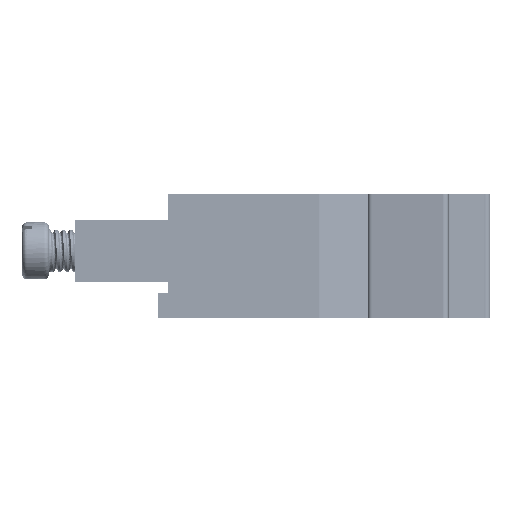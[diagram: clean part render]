
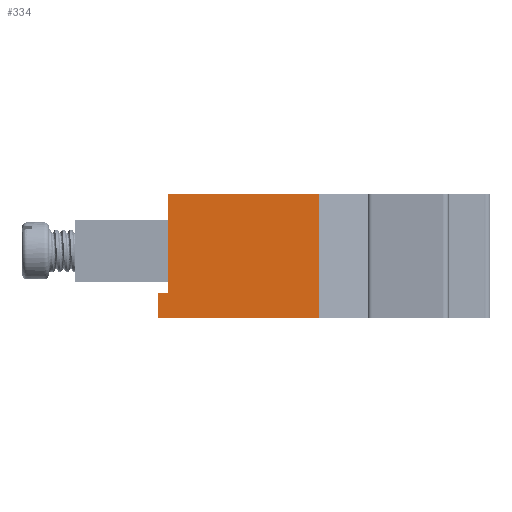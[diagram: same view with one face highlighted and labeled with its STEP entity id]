
A CAD part, left-side view. The second image highlights one B-rep face of the part: STEP entity #334.
In plain terms, the highlighted planar face has unit normal (-1, 0, 0).
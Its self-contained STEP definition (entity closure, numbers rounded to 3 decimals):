
#55 = LINE ( 'NONE', #6162, #10200 ) ;
#334 = ADVANCED_FACE ( 'NONE', ( #3201 ), #14025, .F. ) ;
#984 = LINE ( 'NONE', #16135, #11140 ) ;
#1542 = EDGE_CURVE ( 'NONE', #3099, #11337, #14941, .T. ) ;
#1697 = EDGE_CURVE ( 'NONE', #7669, #14663, #55, .T. ) ;
#2054 = VECTOR ( 'NONE', #5683, 1000. ) ;
#2324 = DIRECTION ( 'NONE',  ( 1., 0., 0. ) ) ;
#2611 = ORIENTED_EDGE ( 'NONE', *, *, #7662, .T. ) ;
#2901 = LINE ( 'NONE', #12443, #9929 ) ;
#2970 = ORIENTED_EDGE ( 'NONE', *, *, #3937, .T. ) ;
#3099 = VERTEX_POINT ( 'NONE', #15594 ) ;
#3201 = FACE_OUTER_BOUND ( 'NONE', #4559, .T. ) ;
#3374 = DIRECTION ( 'NONE',  ( 0., 0., -1. ) ) ;
#3514 = ORIENTED_EDGE ( 'NONE', *, *, #4300, .T. ) ;
#3937 = EDGE_CURVE ( 'NONE', #4147, #3099, #12984, .T. ) ;
#4147 = VERTEX_POINT ( 'NONE', #13906 ) ;
#4257 = DIRECTION ( 'NONE',  ( 0., 1., 0. ) ) ;
#4300 = EDGE_CURVE ( 'NONE', #14663, #14435, #984, .T. ) ;
#4559 = EDGE_LOOP ( 'NONE', ( #2970, #8238, #8182, #9011, #3514, #2611 ) ) ;
#4618 = CARTESIAN_POINT ( 'NONE',  ( 0., -14.487, 12. ) ) ;
#4822 = DIRECTION ( 'NONE',  ( 0., 0., -1. ) ) ;
#5281 = CARTESIAN_POINT ( 'NONE',  ( 0., 1., 2.4 ) ) ;
#5683 = DIRECTION ( 'NONE',  ( 0., -1., 0. ) ) ;
#5863 = EDGE_CURVE ( 'NONE', #7669, #11337, #2901, .T. ) ;
#6162 = CARTESIAN_POINT ( 'NONE',  ( 0., 0., 12. ) ) ;
#6672 = AXIS2_PLACEMENT_3D ( 'NONE', #16843, #2324, #3374 ) ;
#6732 = CARTESIAN_POINT ( 'NONE',  ( 0., 0., 12. ) ) ;
#7662 = EDGE_CURVE ( 'NONE', #14435, #4147, #15838, .T. ) ;
#7669 = VERTEX_POINT ( 'NONE', #6732 ) ;
#8182 = ORIENTED_EDGE ( 'NONE', *, *, #5863, .F. ) ;
#8238 = ORIENTED_EDGE ( 'NONE', *, *, #1542, .T. ) ;
#8768 = CARTESIAN_POINT ( 'NONE',  ( 0., -14.487, 12. ) ) ;
#9011 = ORIENTED_EDGE ( 'NONE', *, *, #1697, .T. ) ;
#9330 = CARTESIAN_POINT ( 'NONE',  ( 0., 1., 2.4 ) ) ;
#9929 = VECTOR ( 'NONE', #13758, 1000. ) ;
#10200 = VECTOR ( 'NONE', #4822, 1000. ) ;
#11140 = VECTOR ( 'NONE', #4257, 1000. ) ;
#11337 = VERTEX_POINT ( 'NONE', #8768 ) ;
#11464 = VECTOR ( 'NONE', #16469, 1000. ) ;
#11939 = VECTOR ( 'NONE', #13309, 1000. ) ;
#12264 = CARTESIAN_POINT ( 'NONE',  ( 0., -14.6, 0. ) ) ;
#12443 = CARTESIAN_POINT ( 'NONE',  ( 0., -14.6, 12. ) ) ;
#12984 = LINE ( 'NONE', #12264, #2054 ) ;
#13309 = DIRECTION ( 'NONE',  ( 0., 0., -1. ) ) ;
#13758 = DIRECTION ( 'NONE',  ( 0., -1., 0. ) ) ;
#13906 = CARTESIAN_POINT ( 'NONE',  ( 0., 1., 0. ) ) ;
#14025 = PLANE ( 'NONE',  #6672 ) ;
#14435 = VERTEX_POINT ( 'NONE', #5281 ) ;
#14663 = VERTEX_POINT ( 'NONE', #16158 ) ;
#14941 = LINE ( 'NONE', #4618, #11464 ) ;
#15594 = CARTESIAN_POINT ( 'NONE',  ( 0., -14.487, 0. ) ) ;
#15838 = LINE ( 'NONE', #9330, #11939 ) ;
#16135 = CARTESIAN_POINT ( 'NONE',  ( 0., 0., 2.4 ) ) ;
#16158 = CARTESIAN_POINT ( 'NONE',  ( 0., 0., 2.4 ) ) ;
#16469 = DIRECTION ( 'NONE',  ( 0., 0., 1. ) ) ;
#16843 = CARTESIAN_POINT ( 'NONE',  ( 0., -14.6, 12. ) ) ;
